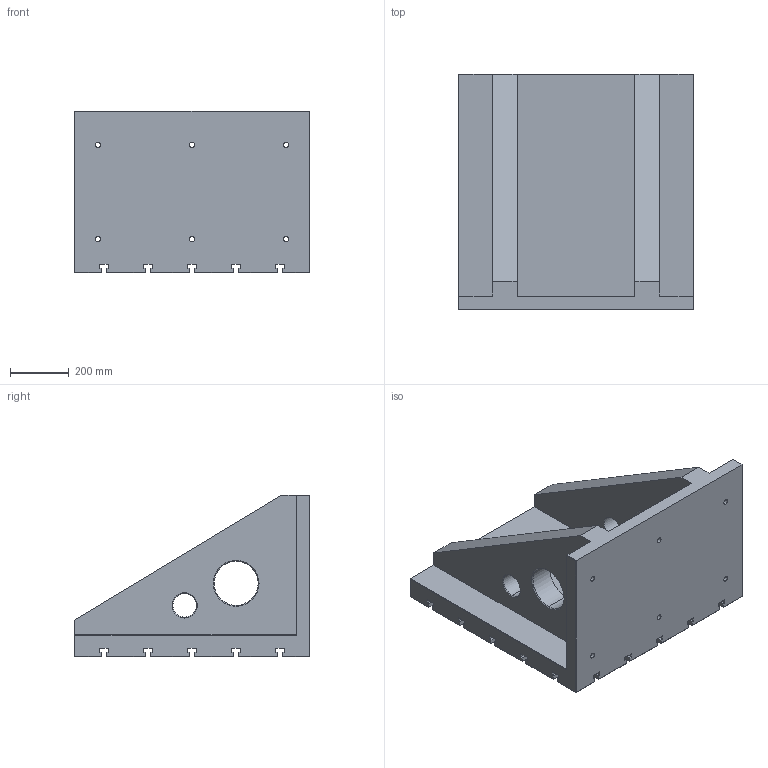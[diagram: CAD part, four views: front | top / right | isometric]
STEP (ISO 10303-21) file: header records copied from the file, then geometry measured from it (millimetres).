
FILE_DESCRIPTION((''),'2;1');
FILE_NAME('FG_WH_ANGPL_ANT18NP004','2026-05-22T12:13:43',('Admin'),(''),'CREO PARAMETRIC BY PTC INC, 2025010','CREO PARAMETRIC BY PTC INC, 2025010','');
FILE_SCHEMA(('CONFIG_CONTROL_DESIGN'));
Length unit declared in the file: millimetre
Products named in the file (1): FG_WH_ANGPL_ANT18NP004
Bounding box: 800 x 800 x 550 mm (x, y, z)
Volume: 91429040.2 mm3; surface area: 3700757.5 mm2
Topology: 1 solids, 1 shells, 409 faces, 1093 edges, 724 vertices
Faces by surface type: plane 369, cylinder 32, cone 8
Entity records: 12605 total; most frequent: CARTESIAN_POINT 2226, ORIENTED_EDGE 2186, DIRECTION 1983, EDGE_CURVE 1093, VECTOR 1021, LINE 1021, VERTEX_POINT 724, AXIS2_PLACEMENT_3D 481
